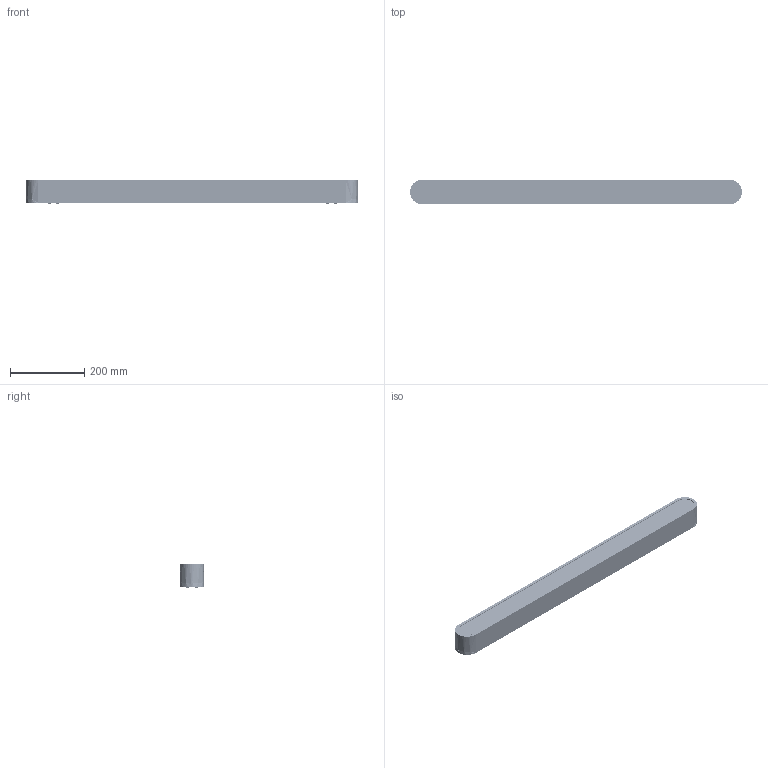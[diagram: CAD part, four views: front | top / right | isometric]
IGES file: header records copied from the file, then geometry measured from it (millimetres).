
Start section: SolidWorks IGES file using analytic representation for surfaces
Global section: file name: \\DC2003\projekty\soft\Profil 3D\Gotowe softy\SOFT 900 plafon 6987.IGS; native system: SolidWorks 2016; preprocessor: SolidWorks 2016; author: Asia; date: 160711.120237; units: millimetre
Bounding box: 891.75 x 65.5 x 61.8 mm (x, y, z)
Surface area: 794230.5 mm2 (no closed solid volume)
Topology: 0 solids, 0 shells, 4775 faces, 43410 edges, 43380 vertices
Faces by surface type: bspline 3427, revolution 1348
